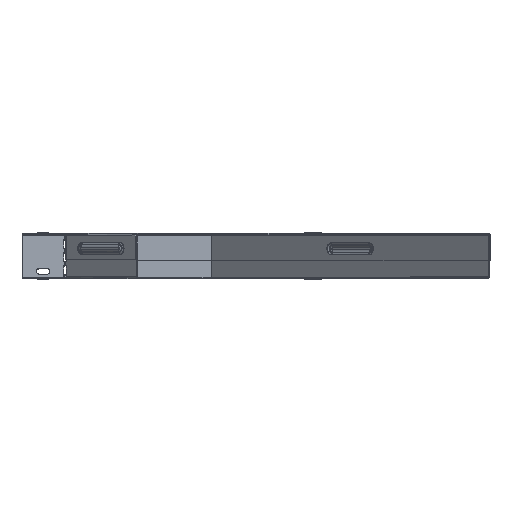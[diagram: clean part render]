
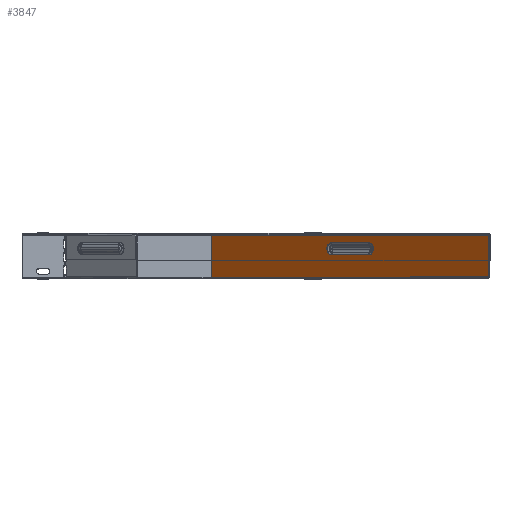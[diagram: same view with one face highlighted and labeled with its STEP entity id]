
A CAD part, top view. The second image highlights one B-rep face of the part: STEP entity #3847.
In plain terms, the highlighted planar face has unit normal (-0.707, 0, 0.707).
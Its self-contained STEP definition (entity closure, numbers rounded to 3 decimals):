
#36 = ORIENTED_EDGE ( 'NONE', *, *, #2671, .F. ) ;
#458 = DIRECTION ( 'NONE',  ( -0.707, 0., 0.707 ) ) ;
#497 = EDGE_CURVE ( 'NONE', #17211, #11584, #9081, .T. ) ;
#659 = CARTESIAN_POINT ( 'NONE',  ( 85.721, 26.183, -128.148 ) ) ;
#1129 = DIRECTION ( 'NONE',  ( 0., 1., 0. ) ) ;
#1516 = DIRECTION ( 'NONE',  ( 0.707, 0., 0.707 ) ) ;
#1635 = CARTESIAN_POINT ( 'NONE',  ( 85.721, 40.017, -128.148 ) ) ;
#1865 = ORIENTED_EDGE ( 'NONE', *, *, #10186, .F. ) ;
#1886 = CARTESIAN_POINT ( 'NONE',  ( 85.721, 33.1, -128.148 ) ) ;
#2143 = FACE_BOUND ( 'NONE', #15743, .T. ) ;
#2259 = CARTESIAN_POINT ( 'NONE',  ( 128.148, 26.183, -85.721 ) ) ;
#2375 = ORIENTED_EDGE ( 'NONE', *, *, #13139, .F. ) ;
#2671 = EDGE_CURVE ( 'NONE', #11584, #17101, #4812, .T. ) ;
#3683 = FACE_OUTER_BOUND ( 'NONE', #7049, .T. ) ;
#3801 = ORIENTED_EDGE ( 'NONE', *, *, #18116, .F. ) ;
#3847 = ADVANCED_FACE ( 'NONE', ( #2143, #3683 ), #4457, .T. ) ;
#4064 = EDGE_CURVE ( 'NONE', #5322, #14414, #4544, .T. ) ;
#4074 = LINE ( 'NONE', #5741, #18143 ) ;
#4134 = CARTESIAN_POINT ( 'NONE',  ( 106.934, 26.183, -106.934 ) ) ;
#4457 = PLANE ( 'NONE',  #16788 ) ;
#4479 = ORIENTED_EDGE ( 'NONE', *, *, #13637, .F. ) ;
#4544 = LINE ( 'NONE', #16285, #17317 ) ;
#4812 = LINE ( 'NONE', #9960, #13834 ) ;
#4854 = VECTOR ( 'NONE', #5697, 1000. ) ;
#4930 = VECTOR ( 'NONE', #13853, 1000. ) ;
#5322 = VERTEX_POINT ( 'NONE', #7080 ) ;
#5697 = DIRECTION ( 'NONE',  ( 0., 1., 0. ) ) ;
#5741 = CARTESIAN_POINT ( 'NONE',  ( 264.434, 48.2, 50.566 ) ) ;
#5891 = VERTEX_POINT ( 'NONE', #13603 ) ;
#6874 = VERTEX_POINT ( 'NONE', #10871 ) ;
#7049 = EDGE_LOOP ( 'NONE', ( #4479, #15392, #3801, #2375 ) ) ;
#7080 = CARTESIAN_POINT ( 'NONE',  ( 264.123, 1., 50.255 ) ) ;
#9081 = CIRCLE ( 'NONE', #9801, 6.917 ) ;
#9190 = DIRECTION ( 'NONE',  ( -0.707, 0., -0.707 ) ) ;
#9656 = AXIS2_PLACEMENT_3D ( 'NONE', #1886, #458, #14746 ) ;
#9801 = AXIS2_PLACEMENT_3D ( 'NONE', #13932, #11114, #1129 ) ;
#9960 = CARTESIAN_POINT ( 'NONE',  ( 106.934, 40.017, -106.934 ) ) ;
#10186 = EDGE_CURVE ( 'NONE', #17101, #10244, #13565, .T. ) ;
#10244 = VERTEX_POINT ( 'NONE', #659 ) ;
#10271 = ORIENTED_EDGE ( 'NONE', *, *, #497, .F. ) ;
#10871 = CARTESIAN_POINT ( 'NONE',  ( -50.255, 48.2, -264.123 ) ) ;
#11098 = LINE ( 'NONE', #4134, #4930 ) ;
#11114 = DIRECTION ( 'NONE',  ( -0.707, 0., 0.707 ) ) ;
#11327 = LINE ( 'NONE', #12223, #13977 ) ;
#11378 = DIRECTION ( 'NONE',  ( -0.707, 0., -0.707 ) ) ;
#11584 = VERTEX_POINT ( 'NONE', #14314 ) ;
#12223 = CARTESIAN_POINT ( 'NONE',  ( 264.434, 1., 50.566 ) ) ;
#13139 = EDGE_CURVE ( 'NONE', #5891, #6874, #15210, .T. ) ;
#13565 = CIRCLE ( 'NONE', #9656, 6.917 ) ;
#13603 = CARTESIAN_POINT ( 'NONE',  ( -50.255, 1., -264.123 ) ) ;
#13623 = DIRECTION ( 'NONE',  ( 0., 1., 0. ) ) ;
#13637 = EDGE_CURVE ( 'NONE', #5322, #5891, #11327, .T. ) ;
#13834 = VECTOR ( 'NONE', #11378, 1000. ) ;
#13853 = DIRECTION ( 'NONE',  ( 0.707, 0., 0.707 ) ) ;
#13932 = CARTESIAN_POINT ( 'NONE',  ( 128.148, 33.1, -85.721 ) ) ;
#13977 = VECTOR ( 'NONE', #9190, 1000. ) ;
#14033 = DIRECTION ( 'NONE',  ( 0.707, 0., 0.707 ) ) ;
#14314 = CARTESIAN_POINT ( 'NONE',  ( 128.148, 40.017, -85.721 ) ) ;
#14401 = EDGE_CURVE ( 'NONE', #10244, #17211, #11098, .T. ) ;
#14414 = VERTEX_POINT ( 'NONE', #16691 ) ;
#14746 = DIRECTION ( 'NONE',  ( 0., 1., 0. ) ) ;
#15210 = LINE ( 'NONE', #16997, #4854 ) ;
#15392 = ORIENTED_EDGE ( 'NONE', *, *, #4064, .T. ) ;
#15743 = EDGE_LOOP ( 'NONE', ( #1865, #36, #10271, #16856 ) ) ;
#16285 = CARTESIAN_POINT ( 'NONE',  ( 264.123, 0., 50.255 ) ) ;
#16691 = CARTESIAN_POINT ( 'NONE',  ( 264.123, 48.2, 50.255 ) ) ;
#16788 = AXIS2_PLACEMENT_3D ( 'NONE', #17194, #17019, #1516 ) ;
#16856 = ORIENTED_EDGE ( 'NONE', *, *, #14401, .F. ) ;
#16997 = CARTESIAN_POINT ( 'NONE',  ( -50.255, 0., -264.123 ) ) ;
#17019 = DIRECTION ( 'NONE',  ( -0.707, 0., 0.707 ) ) ;
#17101 = VERTEX_POINT ( 'NONE', #1635 ) ;
#17194 = CARTESIAN_POINT ( 'NONE',  ( 106.934, 0., -106.934 ) ) ;
#17211 = VERTEX_POINT ( 'NONE', #2259 ) ;
#17317 = VECTOR ( 'NONE', #13623, 1000. ) ;
#18116 = EDGE_CURVE ( 'NONE', #6874, #14414, #4074, .T. ) ;
#18143 = VECTOR ( 'NONE', #14033, 1000. ) ;
